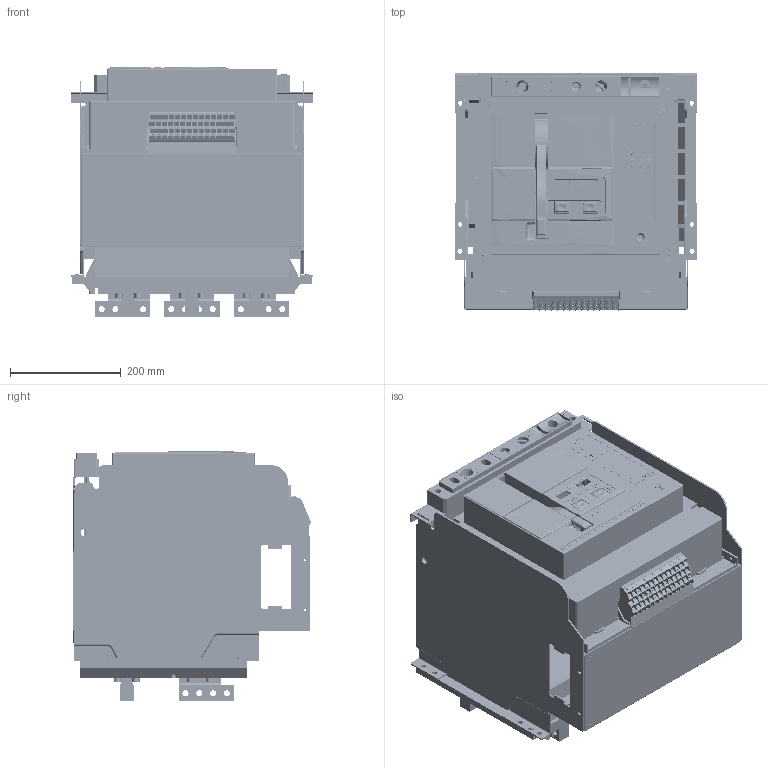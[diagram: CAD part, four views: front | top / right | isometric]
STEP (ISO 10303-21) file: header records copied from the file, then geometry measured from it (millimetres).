
FILE_DESCRIPTION((''),'2;1');
FILE_NAME('NA8-4000H-3P-D-3200A-4000A-VH_ASM','2021-11-08T13:47:01',('lcc'),(''),'CREO PARAMETRIC BY PTC INC, 2020044','CREO PARAMETRIC BY PTC INC, 2020044','');
FILE_SCHEMA(('CONFIG_CONTROL_DESIGN','SHAPE_APPEARANCE_LAYERS_GROUPS'));
Products named in the file (26): 8050A0306126T2; 8050A0306120T; 8050A0306121T; 8300A0306003; 8ZTD-300-536; 8ZTD-227-004; 40-3P-DIBAN02; 8ZTD-060-207; 8ZTD-253-779; 8ZTD-253-780; 8ZTD-253-782; 8-040-432; 8-004-030; 8-860-KZQ; 8-320-094; 8ZTD-253-577; 8ZTD-064-136; 8ZTD-024-837T; 8ZTD-860-699; 5ZTD-558-695-4000_ASM; 8580A0412010; 8580A0412011; GBT70_1-M8X20; GB93-8_1; QNKJ_0200012_2-M8X20_ASM; NA8-4000H-3P-D-3200A-4000A-VH_ASM
Assembly tree (65 placements, depth 3):
  NA8-4000H-3P-D-3200A-4000A-VH_ASM
    8050A0306126T2
    8050A0306120T
    8050A0306121T
    8300A0306003
    8ZTD-300-536
    8ZTD-227-004
    40-3P-DIBAN02
    8ZTD-060-207
    8ZTD-253-779
    8ZTD-253-780
    8ZTD-253-782
    8-040-432
    8-004-030
    8-860-KZQ
    8-320-094
    8ZTD-253-577
    5ZTD-558-695-4000_ASM
      8ZTD-064-136
      8ZTD-024-837T  x14
      8ZTD-860-699
    8580A0412010
    8580A0412011  x5
    QNKJ_0200012_2-M8X20_ASM  x24
      GBT70_1-M8X20
      GB93-8_1
Bounding box: 439 x 429.53 x 452.18 mm (x, y, z)
Volume: 13806615.8 mm3; surface area: 3112812.1 mm2
Topology: 85 solids, 163 shells, 8880 faces, 23685 edges, 15296 vertices
Faces by surface type: plane 5795, cylinder 1892, cone 404, torus 318, extrusion 222, bspline 219, sphere 30
Entity records: 313121 total; most frequent: CARTESIAN_POINT 64094, ORIENTED_EDGE 35721, DIRECTION 32462, PRESENTATION_STYLE_ASSIGNMENT 21949, STYLED_ITEM 21798, CURVE_STYLE 17984, EDGE_CURVE 17902, VECTOR 13312
